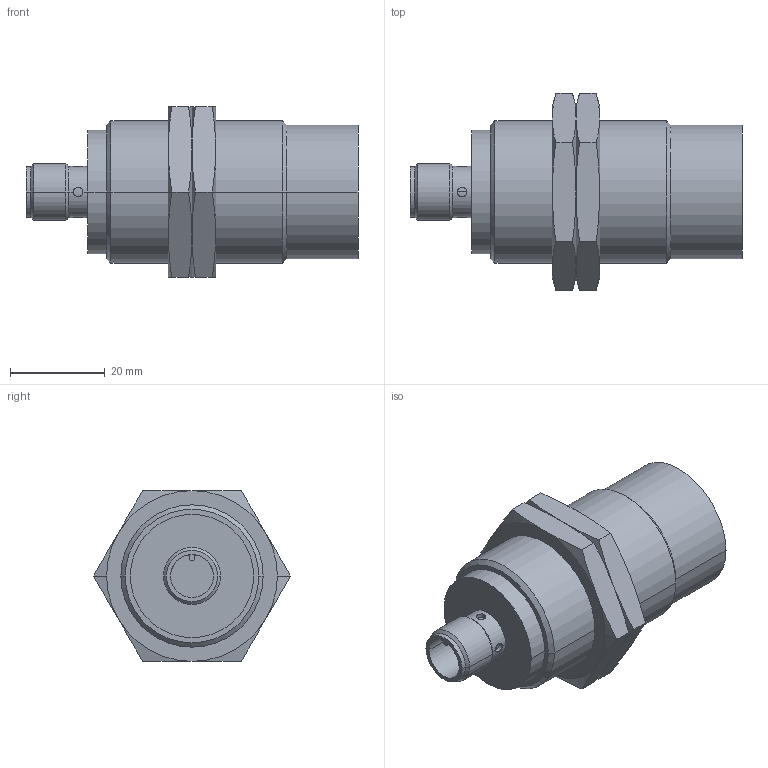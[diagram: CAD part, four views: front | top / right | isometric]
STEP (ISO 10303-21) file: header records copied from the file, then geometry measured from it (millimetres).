
FILE_DESCRIPTION( ( '' ), '1' );
FILE_NAME( '//partserver001.servicenet/client_exchange/iodir/jobs/output/wkb12390414_no0/STEP/iit226_2_03.stp', '2008-10-06T08:31:16', ( '' ), ( '' ), ' ', ' ', ' ' );
FILE_SCHEMA( ( 'CONFIG_CONTROL_DESIGN' ) );
Length unit declared in the file: millimetre
Products named in the file (3): 1; 2; 3
Bounding box: 70 x 41.57 x 36 mm (x, y, z)
Volume: 43833.5 mm3; surface area: 11084.5 mm2
Topology: 3 solids, 3 shells, 105 faces, 228 edges, 134 vertices
Faces by surface type: cone 48, cylinder 33, plane 24
Entity records: 3136 total; most frequent: CARTESIAN_POINT 846, ORIENTED_EDGE 456, DIRECTION 454, EDGE_CURVE 228, AXIS2_PLACEMENT_3D 190, VERTEX_POINT 134, EDGE_LOOP 114, ADVANCED_FACE 105
